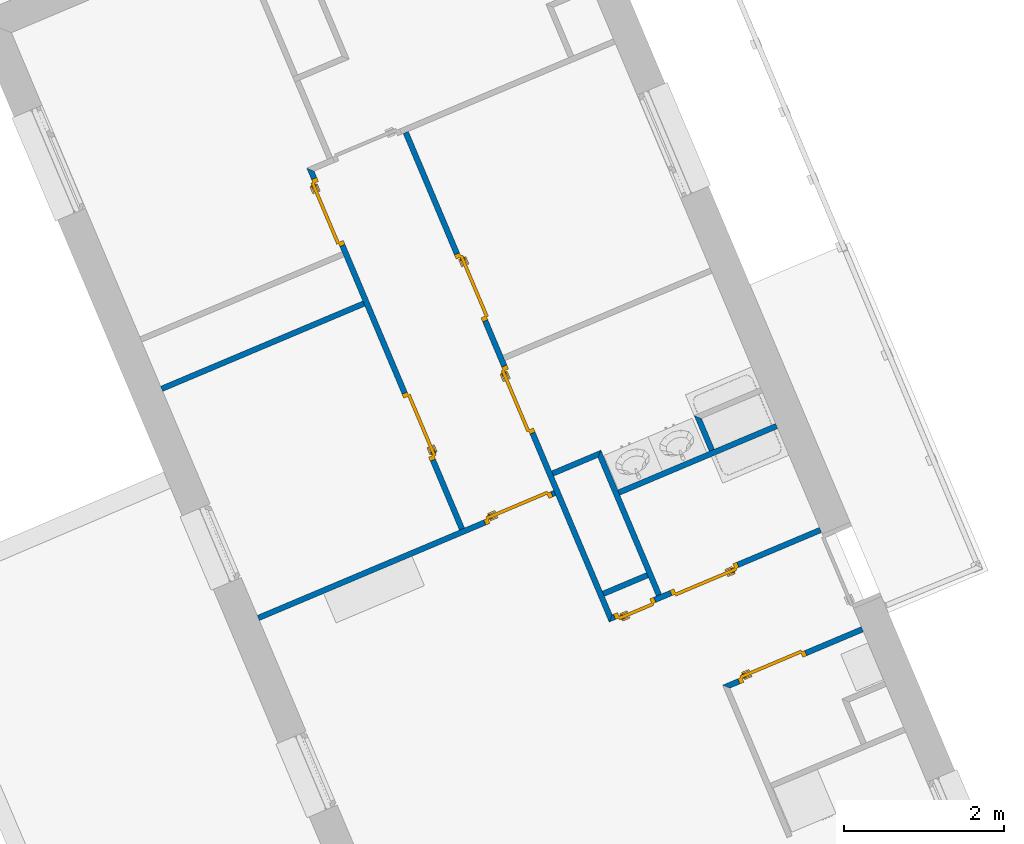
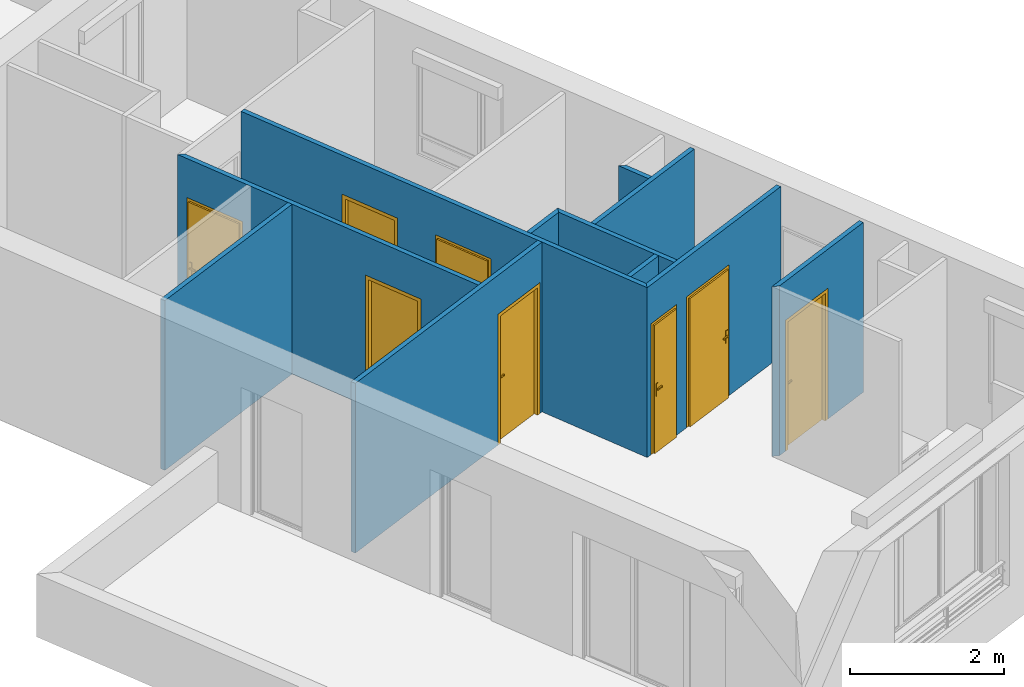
# One storey, part 34 of 121: 11 walls, 8 doors, 8 openings.
"""IFC2X3 building model written with IfcOpenShell, lengths in metres."""

from ifc_helpers import new_model, entity, si_unit, converted_unit, derived_unit, money_unit, direction, frame, origin_with_axes, origin_2d_with_axis, place, context, subcontext, project, spatial, polyline, rectangle, outline, extrude, faceted_brep, source, transform, mapped, material, layer, layer_set, layer_usage, type_object, element, fill, save


model = new_model("IFC2X3")

# Units and contexts
model_context = context("Model", 3, precision=1e-05, world=origin_with_axes(), true_north=direction((0.0, 1.0)))
body_context = subcontext(model_context, "Body", "Model", "MODEL_VIEW")
ifc_project = project(units=[si_unit("LENGTHUNIT", "METRE"), si_unit("AREAUNIT", "SQUARE_METRE"), si_unit("VOLUMEUNIT", "CUBIC_METRE"), converted_unit("PLANEANGLEUNIT", "DEGREE", entity("IfcPlaneAngleMeasure", 0.0174532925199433), si_unit("PLANEANGLEUNIT", "RADIAN"), dimensions=[0, 0, 0, 0, 0, 0, 0]), money_unit("CHF"), converted_unit("TIMEUNIT", "Year", entity("IfcTimeMeasure", 31557600.0), si_unit("TIMEUNIT", "SECOND"), dimensions=[0, 0, 1, 0, 0, 0, 0]), si_unit("MASSUNIT", "GRAM", prefix="KILO"), si_unit("THERMODYNAMICTEMPERATUREUNIT", "DEGREE_CELSIUS"), si_unit("LUMINOUSINTENSITYUNIT", "LUMEN"), si_unit("ENERGYUNIT", "JOULE", prefix="MEGA"), derived_unit("THERMALCONDUCTANCEUNIT", [(si_unit("POWERUNIT", "WATT"), 1), (si_unit("LENGTHUNIT", "METRE"), -1), (si_unit("THERMODYNAMICTEMPERATUREUNIT", "KELVIN"), -1)]), derived_unit("SPECIFICHEATCAPACITYUNIT", [(si_unit("ENERGYUNIT", "JOULE"), 1), (si_unit("MASSUNIT", "GRAM", prefix="KILO"), -1), (si_unit("THERMODYNAMICTEMPERATUREUNIT", "KELVIN"), -1)]), derived_unit("MASSDENSITYUNIT", [(si_unit("MASSUNIT", "GRAM", prefix="KILO"), 1), (si_unit("VOLUMEUNIT", "CUBIC_METRE"), -1)])], contexts=[model_context])

# Site, building, storey
site_placement = place(None, origin_with_axes())
site = spatial("IfcSite", under=ifc_project, at=site_placement, Name="Site", CompositionType="ELEMENT")
building_placement = place(site_placement, origin_with_axes())
building = spatial("IfcBuilding", under=site, at=building_placement, Name="Bâtiment", CompositionType="ELEMENT")
storey_placement = place(building_placement, frame((0.0, 0.0, 2.75), z_axis=(0.0, 0.0, 1.0), x_axis=(1.0, 0.0, 0.0)))
storey = spatial("IfcBuildingStorey", under=building, at=storey_placement, Name="Etage 1", CompositionType="ELEMENT", Elevation=2.75)

# Wall
ifc_material = material(Name="Hachure solide 268963992")
ifc_layer = layer(ifc_material, 0.07, ventilated="UNKNOWN")
ifc_layer_set = layer_set([ifc_layer], Name="Cloison 70 0826278243")
ifc_layer_usage_1 = layer_usage(ifc_layer_set, "AXIS2", "NEGATIVE", 0.0)
wall_type = type_object("IfcWallType", Name="Cloison 70 0826278243 70", PredefinedType="NOTDEFINED")
wall_1_placement = place(storey_placement, frame((9570.707457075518, -1054.706162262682, 57.7), z_axis=(0.0, 0.0, 1.0), x_axis=(-0.9214205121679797, -0.3885669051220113, 0.0)))
element("IfcWallStandardCase", 1, at=wall_1_placement, inside=storey, type_object=wall_type, material=ifc_layer_usage_1, Name="Mur-149", context=body_context, shape_type="SweptSolid", body=[
    extrude(outline(polyline([(0.07000000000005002, -0.06999999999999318), (2.81609925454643, -0.06999999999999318), (2.81609925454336, 0.0), (0.07000000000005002, 0.0), (0.07000000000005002, -0.06999999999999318)])), origin_with_axes(), (0.0, 0.0, 1.0), 2.7),
])

# Wall, openings, doors
ifc_layer_usage_2 = layer_usage(ifc_layer_set, "AXIS2", "NEGATIVE", 0.0)
wall_2_placement = place(storey_placement, frame((9570.00632937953, -1053.043556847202, 57.7), z_axis=(0.0, 0.0, 1.0), x_axis=(0.3885669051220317, -0.921420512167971, 0.0)))
wall_2 = element("IfcWallStandardCase", 2, at=wall_2_placement, inside=storey, type_object=wall_type, material=ifc_layer_usage_2, Name="Mur-149", context=body_context, shape_type="SweptSolid", body=[
    extrude(outline(polyline([(-0.07000000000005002, -0.06999999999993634), (4.846453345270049, -0.06999999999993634), (4.846453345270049, 0.0), (0.0, 0.0), (-0.07000000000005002, -0.06999999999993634)])), origin_with_axes(), (0.0, 0.0, 1.0), 2.7),
])
opening_1_placement = place(wall_2_placement, frame((3.455278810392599, 0.0, 0.0), z_axis=(0.0, 0.0, 1.0), x_axis=(1.0, 0.0, 0.0)))
opening_1 = element("IfcOpeningElement", 3, at=opening_1_placement, cuts=wall_2, Name="Por-301", context=body_context, shape_type="SweptSolid", body=[
    extrude(rectangle(XDim=0.9099999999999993, YDim=2.079999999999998, at=origin_2d_with_axis()), frame((0.0, -0.06999999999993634, 1.039999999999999), z_axis=(0.0, -1.0, 0.0), x_axis=(-1.0, 0.0, 0.0)), (0.0, 0.0, -1.0), 0.14),
])
opening_2_placement = place(wall_2_placement, frame((0.5406086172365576, 0.0, 0.0), z_axis=(0.0, 0.0, 1.0), x_axis=(1.0, 0.0, 0.0)))
opening_2 = element("IfcOpeningElement", 4, at=opening_2_placement, cuts=wall_2, Name="Por-299", context=body_context, shape_type="SweptSolid", body=[
    extrude(rectangle(XDim=0.9099999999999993, YDim=2.079999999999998, at=origin_2d_with_axis()), frame((0.0, 0.07000000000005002, 1.039999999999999), z_axis=(0.0, 1.0, 0.0), x_axis=(1.0, 0.0, 0.0)), (0.0, 0.0, -1.0), 0.14),
])
door_style = type_object("IfcDoorStyle", Name="Porte_1v", ConstructionType="NOTDEFINED", OperationType="NOTDEFINED", ParameterTakesPrecedence=False, Sizeable=False)
shared_shape_1 = source(origin_with_axes(), body_context, "Body", "Brep", [
    faceted_brep([(-0.455, 0.0, 0.0), (-0.455, 0.0, 2.08), (0.455, 0.0, 2.08), (0.455, 0.0, 0.0), (0.415, 0.0, 0.0), (0.415, 0.0, 2.04), (-0.415, 0.0, 2.04), (-0.415, 0.0, 0.0), (-0.455, -0.07, 0.0), (-0.455, -0.07, 2.08), (0.455, -0.07, 2.08), (0.455, -0.07, 0.0), (0.4, -0.07, 0.0), (0.4, -0.015, 0.0), (0.415, -0.015, 0.0), (0.415, -0.015, 2.04), (-0.415, -0.015, 2.04), (-0.415, -0.015, 0.0), (-0.4, -0.015, 0.0), (-0.4, -0.07, 0.0), (-0.4, -0.07, 2.025), (0.4, -0.07, 2.025), (0.4, -0.015, 2.025), (-0.4, -0.015, 2.025)], [[[0, 1, 2, 3, 4, 5, 6, 7]], [[8, 9, 1, 0]], [[9, 10, 2, 1]], [[10, 11, 3, 2]], [[3, 11, 12, 13, 14, 4]], [[5, 4, 14, 15]], [[6, 5, 15, 16]], [[7, 6, 16, 17]], [[0, 7, 17, 18, 19, 8]], [[19, 20, 21, 12, 11, 10, 9, 8]], [[22, 13, 12, 21]], [[17, 16, 15, 14, 13, 22, 23, 18]], [[18, 23, 20, 19]], [[23, 22, 21, 20]]]),
    faceted_brep([(0.35, -0.015, 0.9), (0.35, -0.015, 1.1), (0.39, -0.015, 1.1), (0.39, -0.015, 0.9), (0.35, -0.025, 0.9), (0.35, -0.025, 1.1), (0.39, -0.025, 1.1), (0.39, -0.025, 0.9)], [[[0, 1, 2, 3]], [[0, 4, 5, 1]], [[1, 5, 6, 2]], [[2, 6, 7, 3]], [[3, 7, 4, 0]], [[7, 6, 5, 4]]]),
    faceted_brep([(0.28, -0.025, 1.0), (0.28, -0.025, 1.02), (0.38, -0.025, 1.02), (0.38, -0.025, 1.0), (0.28, -0.045, 1.0), (0.28, -0.045, 1.02), (0.38, -0.045, 1.02), (0.38, -0.045, 1.0)], [[[0, 1, 2, 3]], [[0, 4, 5, 1]], [[1, 5, 6, 2]], [[2, 6, 7, 3]], [[3, 7, 4, 0]], [[7, 6, 5, 4]]]),
    faceted_brep([(0.35, 0.035, 0.9), (0.35, 0.035, 1.1), (0.39, 0.035, 1.1), (0.39, 0.035, 0.9), (0.35, 0.025, 0.9), (0.35, 0.025, 1.1), (0.39, 0.025, 1.1), (0.39, 0.025, 0.9)], [[[0, 1, 2, 3]], [[0, 4, 5, 1]], [[1, 5, 6, 2]], [[2, 6, 7, 3]], [[3, 7, 4, 0]], [[7, 6, 5, 4]]]),
    faceted_brep([(0.28, 0.05500000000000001, 1.0), (0.28, 0.05500000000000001, 1.02), (0.38, 0.05500000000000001, 1.02), (0.38, 0.05500000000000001, 1.0), (0.28, 0.035, 1.0), (0.28, 0.035, 1.02), (0.38, 0.035, 1.02), (0.38, 0.035, 1.0)], [[[0, 1, 2, 3]], [[0, 4, 5, 1]], [[1, 5, 6, 2]], [[2, 6, 7, 3]], [[3, 7, 4, 0]], [[7, 6, 5, 4]]]),
    faceted_brep([(0.415, 0.025, 0.0), (0.415, -0.015, 0.0), (-0.415, -0.015, 0.0), (-0.415, 0.025, 0.0), (0.415, 0.025, 2.04), (0.415, -0.015, 2.04), (-0.415, -0.015, 2.04), (-0.415, 0.025, 2.04)], [[[0, 1, 2, 3]], [[4, 5, 1, 0]], [[1, 5, 6, 2]], [[3, 2, 6, 7]], [[0, 3, 7, 4]], [[7, 6, 5, 4]]]),
])
door_1_placement = place(opening_1_placement, frame((-0.415000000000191, 0.0, 0.0), z_axis=(0.0, 0.0, 1.0), x_axis=(1.0, 0.0, 0.0)))
door_1 = element("IfcDoor", 5, at=door_1_placement, inside=storey, type_object=door_style, Name="Por-301", OverallHeight=2.04, OverallWidth=0.83, context=body_context, shape_type="MappedRepresentation", body=[
    mapped(shared_shape_1, transform((0.4150000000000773, 0.0, 0.0))),
])
fill(opening_1, door_1)
door_2_placement = place(opening_2_placement, frame((0.4150000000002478, 0.0, 0.0), z_axis=(0.0, 0.0, 1.0), x_axis=(-1.0, 0.0, 0.0)))
door_2 = element("IfcDoor", 6, at=door_2_placement, inside=storey, type_object=door_style, Name="Por-299", OverallHeight=2.04, OverallWidth=0.83, context=body_context, shape_type="MappedRepresentation", body=[
    mapped(shared_shape_1, transform((0.4150000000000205, 0.06999999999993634, 0.0))),
])
fill(opening_2, door_2)

# Walls
ifc_layer_usage_3 = layer_usage(ifc_layer_set, "AXIS2", "NEGATIVE", 0.0)
wall_3_placement = place(storey_placement, frame((9572.97776510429, -1056.795656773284, 57.7), z_axis=(0.0, 0.0, 1.0), x_axis=(0.9214205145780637, 0.3885668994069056, 0.0)))
element("IfcWallStandardCase", 7, at=wall_3_placement, inside=storey, type_object=wall_type, material=ifc_layer_usage_3, Name="Mur-149", context=body_context, shape_type="SweptSolid", body=[
    extrude(outline(polyline([(0.0, -0.06999999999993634), (0.6000000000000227, -0.06999999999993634), (0.6699999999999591, 0.0), (0.0, 0.0), (0.0, -0.06999999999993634)])), origin_with_axes(), (0.0, 0.0, 1.0), 2.7),
])
ifc_layer_usage_4 = layer_usage(ifc_layer_set, "AXIS2", "NEGATIVE", 0.0)
wall_4_placement = place(storey_placement, frame((9574.256892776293, -1058.104606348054, 57.7), z_axis=(0.0, 0.0, 1.0), x_axis=(-0.9214205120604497, -0.3885669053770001, 0.0)))
element("IfcWallStandardCase", 8, at=wall_4_placement, inside=storey, type_object=wall_type, material=ifc_layer_usage_4, Name="Mur-149", context=body_context, shape_type="SweptSolid", body=[
    extrude(outline(polyline([(0.06999999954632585, -0.06999999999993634), (0.6699999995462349, -0.06999999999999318), (0.6699999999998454, 0.0), (0.06999999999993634, 0.0), (0.06999999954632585, -0.06999999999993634)])), origin_with_axes(), (0.0, 0.0, 1.0), 2.7),
])

# Wall, opening, door
ifc_layer_usage_5 = layer_usage(ifc_layer_set, "AXIS2", "POSITIVE", 0.0)
wall_5_placement = place(storey_placement, frame((9575.20997934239, -1059.513478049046, 57.7), z_axis=(0.0, 0.0, 1.0), x_axis=(0.9214205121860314, 0.3885669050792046, 0.0)))
wall_5 = element("IfcWallStandardCase", 9, at=wall_5_placement, inside=storey, type_object=wall_type, material=ifc_layer_usage_5, Name="Mur-149", context=body_context, shape_type="SweptSolid", body=[
    extrude(outline(polyline([(0.0, 0.0), (1.813062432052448, 0.0), (1.813062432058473, 0.06999999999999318), (-0.07000000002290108, 0.06999999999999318), (0.0, 0.0)])), origin_with_axes(), (0.0, 0.0, 1.0), 2.7),
])
opening_3_placement = place(wall_5_placement, frame((0.5904197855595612, 0.0, 0.0), z_axis=(0.0, 0.0, 1.0), x_axis=(1.0, 0.0, 0.0)))
opening_3 = element("IfcOpeningElement", 10, at=opening_3_placement, cuts=wall_5, Name="Por-299", context=body_context, shape_type="SweptSolid", body=[
    extrude(rectangle(XDim=0.9099999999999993, YDim=2.079999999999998, at=origin_2d_with_axis()), frame((0.0, -0.07000000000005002, 1.039999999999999), z_axis=(0.0, 1.0, 0.0), x_axis=(1.0, 0.0, 0.0)), (0.0, 0.0, 1.0), 0.14),
])
shared_shape_2 = source(origin_with_axes(), body_context, "Body", "Brep", [
    faceted_brep([(0.455, 0.0, 0.0), (0.415, 0.0, 0.0), (0.415, 0.0, 2.04), (-0.415, 0.0, 2.04), (-0.415, 0.0, 0.0), (-0.455, 0.0, 0.0), (-0.455, 0.0, 2.08), (0.455, 0.0, 2.08), (0.455, -0.07, 0.0), (0.4, -0.07, 0.0), (0.4, -0.015, 0.0), (0.415, -0.015, 0.0), (0.415, -0.015, 2.04), (-0.415, -0.015, 2.04), (-0.415, -0.015, 0.0), (-0.4, -0.015, 0.0), (-0.4, -0.07, 0.0), (-0.455, -0.07, 0.0), (-0.455, -0.07, 2.08), (0.455, -0.07, 2.08), (-0.4, -0.07, 2.025), (0.4, -0.07, 2.025), (0.4, -0.015, 2.025), (-0.4, -0.015, 2.025)], [[[0, 1, 2, 3, 4, 5, 6, 7]], [[0, 8, 9, 10, 11, 1]], [[1, 11, 12, 2]], [[2, 12, 13, 3]], [[3, 13, 14, 4]], [[5, 4, 14, 15, 16, 17]], [[18, 6, 5, 17]], [[19, 7, 6, 18]], [[8, 0, 7, 19]], [[9, 8, 19, 18, 17, 16, 20, 21]], [[10, 9, 21, 22]], [[11, 10, 22, 23, 15, 14, 13, 12]], [[23, 20, 16, 15]], [[22, 21, 20, 23]]]),
    faceted_brep([(-0.35, -0.015, 0.9), (-0.39, -0.015, 0.9), (-0.39, -0.015, 1.1), (-0.35, -0.015, 1.1), (-0.35, -0.025, 0.9), (-0.39, -0.025, 0.9), (-0.39, -0.025, 1.1), (-0.35, -0.025, 1.1)], [[[0, 1, 2, 3]], [[1, 0, 4, 5]], [[2, 1, 5, 6]], [[3, 2, 6, 7]], [[0, 3, 7, 4]], [[5, 4, 7, 6]]]),
    faceted_brep([(-0.28, -0.025, 1.0), (-0.38, -0.025, 1.0), (-0.38, -0.025, 1.02), (-0.28, -0.025, 1.02), (-0.28, -0.045, 1.0), (-0.38, -0.045, 1.0), (-0.38, -0.045, 1.02), (-0.28, -0.045, 1.02)], [[[0, 1, 2, 3]], [[1, 0, 4, 5]], [[2, 1, 5, 6]], [[3, 2, 6, 7]], [[0, 3, 7, 4]], [[5, 4, 7, 6]]]),
    faceted_brep([(-0.35, 0.035, 0.9), (-0.39, 0.035, 0.9), (-0.39, 0.035, 1.1), (-0.35, 0.035, 1.1), (-0.35, 0.025, 0.9), (-0.39, 0.025, 0.9), (-0.39, 0.025, 1.1), (-0.35, 0.025, 1.1)], [[[0, 1, 2, 3]], [[1, 0, 4, 5]], [[2, 1, 5, 6]], [[3, 2, 6, 7]], [[0, 3, 7, 4]], [[5, 4, 7, 6]]]),
    faceted_brep([(-0.28, 0.05500000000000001, 1.0), (-0.38, 0.05500000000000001, 1.0), (-0.38, 0.05500000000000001, 1.02), (-0.28, 0.05500000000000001, 1.02), (-0.28, 0.035, 1.0), (-0.38, 0.035, 1.0), (-0.38, 0.035, 1.02), (-0.28, 0.035, 1.02)], [[[0, 1, 2, 3]], [[1, 0, 4, 5]], [[2, 1, 5, 6]], [[3, 2, 6, 7]], [[0, 3, 7, 4]], [[5, 4, 7, 6]]]),
    faceted_brep([(-0.415, 0.025, 0.0), (0.415, 0.025, 0.0), (0.415, -0.015, 0.0), (-0.415, -0.015, 0.0), (-0.415, 0.025, 2.04), (0.415, 0.025, 2.04), (0.415, -0.015, 2.04), (-0.415, -0.015, 2.04)], [[[0, 1, 2, 3]], [[0, 4, 5, 1]], [[1, 5, 6, 2]], [[3, 2, 6, 7]], [[4, 0, 3, 7]], [[5, 4, 7, 6]]]),
])
door_3_placement = place(opening_3_placement, frame((-0.415000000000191, 0.0, 0.0), z_axis=(0.0, 0.0, 1.0), x_axis=(1.0, 0.0, 0.0)))
door_3 = element("IfcDoor", 11, at=door_3_placement, inside=storey, type_object=door_style, Name="Por-299", OverallHeight=2.04, OverallWidth=0.83, context=body_context, shape_type="MappedRepresentation", body=[
    mapped(shared_shape_2, transform((0.4149999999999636, 0.06999999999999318, 0.0))),
])
fill(opening_3, door_3)

# Wall, openings, doors
ifc_layer_usage_6 = layer_usage(ifc_layer_set, "AXIS2", "NEGATIVE", 0.0)
wall_6_placement = place(storey_placement, frame((9576.706729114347, -1057.418789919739, 57.7), z_axis=(0.0, 0.0, 1.0), x_axis=(-0.9214205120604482, -0.3885669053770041, 0.0)))
wall_6 = element("IfcWallStandardCase", 12, at=wall_6_placement, inside=storey, type_object=wall_type, material=ifc_layer_usage_6, Name="Mur-149", context=body_context, shape_type="SweptSolid", body=[
    extrude(outline(polyline([(0.3799999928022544, -0.06999999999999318), (3.193815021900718, -0.06999999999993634), (3.263815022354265, 0.0), (0.3799999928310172, 0.0), (0.3799999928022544, -0.06999999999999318)])), origin_with_axes(), (0.0, 0.0, 1.0), 2.7),
])
opening_4_placement = place(wall_6_placement, frame((1.956257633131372, 0.0, 0.0), z_axis=(0.0, 0.0, 1.0), x_axis=(1.0, 0.0, 0.0)))
opening_4 = element("IfcOpeningElement", 13, at=opening_4_placement, cuts=wall_6, Name="Por-299", context=body_context, shape_type="SweptSolid", body=[
    extrude(rectangle(XDim=0.9099999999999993, YDim=2.079999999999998, at=origin_2d_with_axis()), frame((0.0, -0.06999999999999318, 1.039999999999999), z_axis=(0.0, 1.0, 0.0), x_axis=(1.0, 0.0, 0.0)), (0.0, 0.0, 1.0), 0.14),
])
opening_5_placement = place(wall_6_placement, frame((2.902746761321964, 0.0, 0.0), z_axis=(0.0, 0.0, 1.0), x_axis=(1.0, 0.0, 0.0)))
opening_5 = element("IfcOpeningElement", 14, at=opening_5_placement, cuts=wall_6, Name="Por-320", context=body_context, shape_type="SweptSolid", body=[
    extrude(rectangle(XDim=0.547405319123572, YDim=2.079999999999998, at=origin_2d_with_axis()), frame((2.722686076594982e-09, -0.06999999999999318, 1.039999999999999), z_axis=(0.0, -1.0, 0.0), x_axis=(-1.0, 0.0, 0.0)), (0.0, 0.0, -1.0), 0.14),
])
door_4_placement = place(opening_4_placement, frame((-0.4150000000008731, 0.0, 0.0), z_axis=(0.0, 0.0, 1.0), x_axis=(1.0, 0.0, 0.0)))
door_4 = element("IfcDoor", 15, at=door_4_placement, inside=storey, type_object=door_style, Name="Por-299", OverallHeight=2.04, OverallWidth=0.83, context=body_context, shape_type="MappedRepresentation", body=[
    mapped(shared_shape_2, transform((0.4150000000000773, 0.0, 0.0))),
])
fill(opening_4, door_4)
shared_shape_3 = source(origin_with_axes(), body_context, "Body", "Brep", [
    faceted_brep([(-0.2737026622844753, 0.0, 0.0), (-0.2737026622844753, 0.0, 2.08), (0.2737026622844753, 0.0, 2.08), (0.2737026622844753, 0.0, 0.0), (0.2337026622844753, 0.0, 0.0), (0.2337026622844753, 0.0, 2.04), (-0.2337026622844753, 0.0, 2.04), (-0.2337026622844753, 0.0, 0.0), (-0.2737026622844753, -0.07, 0.0), (-0.2737026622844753, -0.07, 2.08), (0.2737026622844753, -0.07, 2.08), (0.2737026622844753, -0.07, 0.0), (0.2187026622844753, -0.07, 0.0), (0.2187026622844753, -0.015, 0.0), (0.2337026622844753, -0.015, 0.0), (0.2337026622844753, -0.015, 2.04), (-0.2337026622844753, -0.015, 2.04), (-0.2337026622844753, -0.015, 0.0), (-0.2187026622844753, -0.015, 0.0), (-0.2187026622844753, -0.07, 0.0), (-0.2187026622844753, -0.07, 2.025), (0.2187026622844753, -0.07, 2.025), (0.2187026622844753, -0.015, 2.025), (-0.2187026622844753, -0.015, 2.025)], [[[0, 1, 2, 3, 4, 5, 6, 7]], [[8, 9, 1, 0]], [[9, 10, 2, 1]], [[10, 11, 3, 2]], [[3, 11, 12, 13, 14, 4]], [[5, 4, 14, 15]], [[6, 5, 15, 16]], [[7, 6, 16, 17]], [[0, 7, 17, 18, 19, 8]], [[19, 20, 21, 12, 11, 10, 9, 8]], [[22, 13, 12, 21]], [[17, 16, 15, 14, 13, 22, 23, 18]], [[18, 23, 20, 19]], [[23, 22, 21, 20]]]),
    faceted_brep([(0.1687026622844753, -0.015, 0.9), (0.1687026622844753, -0.015, 1.1), (0.2087026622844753, -0.015, 1.1), (0.2087026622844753, -0.015, 0.9), (0.1687026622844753, -0.025, 0.9), (0.1687026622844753, -0.025, 1.1), (0.2087026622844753, -0.025, 1.1), (0.2087026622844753, -0.025, 0.9)], [[[0, 1, 2, 3]], [[0, 4, 5, 1]], [[1, 5, 6, 2]], [[2, 6, 7, 3]], [[3, 7, 4, 0]], [[7, 6, 5, 4]]]),
    faceted_brep([(0.0987026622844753, -0.025, 1.0), (0.0987026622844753, -0.025, 1.02), (0.1987026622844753, -0.025, 1.02), (0.1987026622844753, -0.025, 1.0), (0.0987026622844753, -0.045, 1.0), (0.0987026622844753, -0.045, 1.02), (0.1987026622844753, -0.045, 1.02), (0.1987026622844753, -0.045, 1.0)], [[[0, 1, 2, 3]], [[0, 4, 5, 1]], [[1, 5, 6, 2]], [[2, 6, 7, 3]], [[3, 7, 4, 0]], [[7, 6, 5, 4]]]),
    faceted_brep([(0.1687026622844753, 0.035, 0.9), (0.1687026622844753, 0.035, 1.1), (0.2087026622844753, 0.035, 1.1), (0.2087026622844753, 0.035, 0.9), (0.1687026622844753, 0.025, 0.9), (0.1687026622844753, 0.025, 1.1), (0.2087026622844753, 0.025, 1.1), (0.2087026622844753, 0.025, 0.9)], [[[0, 1, 2, 3]], [[0, 4, 5, 1]], [[1, 5, 6, 2]], [[2, 6, 7, 3]], [[3, 7, 4, 0]], [[7, 6, 5, 4]]]),
    faceted_brep([(0.0987026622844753, 0.05500000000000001, 1.0), (0.0987026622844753, 0.05500000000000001, 1.02), (0.1987026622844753, 0.05500000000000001, 1.02), (0.1987026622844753, 0.05500000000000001, 1.0), (0.0987026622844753, 0.035, 1.0), (0.0987026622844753, 0.035, 1.02), (0.1987026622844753, 0.035, 1.02), (0.1987026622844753, 0.035, 1.0)], [[[0, 1, 2, 3]], [[0, 4, 5, 1]], [[1, 5, 6, 2]], [[2, 6, 7, 3]], [[3, 7, 4, 0]], [[7, 6, 5, 4]]]),
    faceted_brep([(0.2337026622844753, 0.025, 0.0), (0.2337026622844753, -0.015, 0.0), (-0.2337026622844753, -0.015, 0.0), (-0.2337026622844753, 0.025, 0.0), (0.2337026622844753, 0.025, 2.04), (0.2337026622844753, -0.015, 2.04), (-0.2337026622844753, -0.015, 2.04), (-0.2337026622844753, 0.025, 2.04)], [[[0, 1, 2, 3]], [[4, 5, 1, 0]], [[1, 5, 6, 2]], [[3, 2, 6, 7]], [[0, 3, 7, 4]], [[7, 6, 5, 4]]]),
])
door_5_placement = place(opening_5_placement, frame((-0.2337026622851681, 0.0, 0.0), z_axis=(0.0, 0.0, 1.0), x_axis=(1.0, 0.0, 0.0)))
door_5 = element("IfcDoor", 16, at=door_5_placement, inside=storey, type_object=door_style, Name="Por-320", OverallHeight=2.04, OverallWidth=0.467405, context=body_context, shape_type="MappedRepresentation", body=[
    mapped(shared_shape_3, transform((0.233702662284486, 0.0, 0.0))),
])
fill(opening_5, door_5)

# Walls
ifc_layer_usage_7 = layer_usage(ifc_layer_set, "AXIS2", "POSITIVE", 0.0)
wall_7_placement = place(storey_placement, frame((9575.043260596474, -1056.588163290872, 57.7), z_axis=(0.0, 0.0, 1.0), x_axis=(-0.3885669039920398, 0.9214205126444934, 0.0)))
element("IfcWallStandardCase", 17, at=wall_7_placement, inside=storey, type_object=wall_type, material=ifc_layer_usage_7, Name="Mur-149", context=body_context, shape_type="SweptSolid", body=[
    extrude(outline(polyline([(0.06999999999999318, 0.0), (0.4870133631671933, 0.0), (0.5570133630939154, 0.06999999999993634), (0.06999999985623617, 0.06999999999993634), (0.06999999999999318, 0.0)])), origin_with_axes(), (0.0, 0.0, 1.0), 2.7),
])
ifc_layer_usage_8 = layer_usage(ifc_layer_set, "AXIS2", "NEGATIVE", 0.0)
wall_8_placement = place(storey_placement, frame((9576.158179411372, -1056.117997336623, 57.7), z_axis=(0.0, 0.0, 1.0), x_axis=(-0.9214205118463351, -0.3885669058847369, 0.0)))
element("IfcWallStandardCase", 18, at=wall_8_placement, inside=storey, type_object=wall_type, material=ifc_layer_usage_8, Name="Mur-149", context=body_context, shape_type="SweptSolid", body=[
    extrude(outline(polyline([(0.3799999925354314, -0.07000000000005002), (2.523815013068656, -0.07000000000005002), (2.523815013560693, 0.0), (0.3799999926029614, 0.0), (0.3799999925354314, -0.07000000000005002)])), origin_with_axes(), (0.0, 0.0, 1.0), 2.7),
])

# Wall, openings, doors
ifc_layer_usage_9 = layer_usage(ifc_layer_set, "AXIS2", "NEGATIVE", 0.0)
wall_9_placement = place(storey_placement, frame((9571.185747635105, -1052.546191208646, 57.7), z_axis=(0.0, 0.0, 1.0), x_axis=(0.3885668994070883, -0.9214205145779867, 0.0)))
wall_9 = element("IfcWallStandardCase", 19, at=wall_9_placement, inside=storey, type_object=wall_type, material=ifc_layer_usage_9, Name="Mur-149", context=body_context, shape_type="SweptSolid", body=[
    extrude(outline(polyline([(4.341131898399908e-10, -0.06999999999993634), (6.634983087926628, -0.06999999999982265), (6.564983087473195, 0.0), (0.0, 0.0), (4.341131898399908e-10, -0.06999999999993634)])), origin_with_axes(), (0.0, 0.0, 1.0), 2.7),
])
opening_6_placement = place(wall_9_placement, frame((3.627776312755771, 0.0, 0.0), z_axis=(0.0, 0.0, 1.0), x_axis=(1.0, 0.0, 0.0)))
opening_6 = element("IfcOpeningElement", 20, at=opening_6_placement, cuts=wall_9, Name="Por-301", context=body_context, shape_type="SweptSolid", body=[
    extrude(rectangle(XDim=0.9099999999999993, YDim=2.079999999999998, at=origin_2d_with_axis()), frame((0.0, 0.07000000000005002, 1.039999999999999), z_axis=(0.0, 1.0, 0.0), x_axis=(1.0, 0.0, 0.0)), (0.0, 0.0, -1.0), 0.14),
])
opening_7_placement = place(wall_9_placement, frame((2.103838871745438, 0.0, 0.0), z_axis=(0.0, 0.0, 1.0), x_axis=(1.0, 0.0, 0.0)))
opening_7 = element("IfcOpeningElement", 21, at=opening_7_placement, cuts=wall_9, Name="Por-299", context=body_context, shape_type="SweptSolid", body=[
    extrude(rectangle(XDim=0.9099999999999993, YDim=2.079999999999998, at=origin_2d_with_axis()), frame((0.0, -0.06999999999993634, 1.039999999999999), z_axis=(0.0, 1.0, 0.0), x_axis=(1.0, 0.0, 0.0)), (0.0, 0.0, 1.0), 0.14),
])
door_6_placement = place(opening_7_placement, frame((-0.4149999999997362, 0.0, 0.0), z_axis=(0.0, 0.0, 1.0), x_axis=(1.0, 0.0, 0.0)))
door_6 = element("IfcDoor", 22, at=door_6_placement, inside=storey, type_object=door_style, Name="Por-299", OverallHeight=2.04, OverallWidth=0.83, context=body_context, shape_type="MappedRepresentation", body=[
    mapped(shared_shape_2, transform((0.4149999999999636, 0.0, 0.0))),
])
fill(opening_7, door_6)
door_7_placement = place(opening_6_placement, frame((0.4150000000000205, 0.0, 0.0), z_axis=(0.0, 0.0, 1.0), x_axis=(-1.0, 0.0, 0.0)))
door_7 = element("IfcDoor", 23, at=door_7_placement, inside=storey, type_object=door_style, Name="Por-301", OverallHeight=2.04, OverallWidth=0.83, context=body_context, shape_type="MappedRepresentation", body=[
    mapped(shared_shape_1, transform((0.4150000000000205, 0.06999999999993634, 0.0))),
])
fill(opening_6, door_7)

# Wall, opening, door
ifc_layer_usage_10 = layer_usage(ifc_layer_set, "AXIS2", "NEGATIVE", 0.0)
wall_10_placement = place(storey_placement, frame((9573.096118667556, -1057.076312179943, 57.7), z_axis=(0.0, 0.0, 1.0), x_axis=(-0.9214205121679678, -0.3885669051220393, 0.0)))
wall_10 = element("IfcWallStandardCase", 24, at=wall_10_placement, inside=storey, type_object=wall_type, material=ifc_layer_usage_10, Name="Mur-149", context=body_context, shape_type="SweptSolid", body=[
    extrude(outline(polyline([(0.06999999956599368, -0.06999999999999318), (4.096099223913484, -0.07000000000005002), (4.096099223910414, 0.0), (0.0700000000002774, 0.0), (0.06999999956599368, -0.06999999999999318)])), origin_with_axes(), (0.0, 0.0, 1.0), 2.7),
])
opening_8_placement = place(wall_10_placement, frame((0.5644931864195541, 0.0, 0.0), z_axis=(0.0, 0.0, 1.0), x_axis=(1.0, 0.0, 0.0)))
opening_8 = element("IfcOpeningElement", 25, at=opening_8_placement, cuts=wall_10, Name="Por-299", context=body_context, shape_type="SweptSolid", body=[
    extrude(rectangle(XDim=0.9099999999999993, YDim=2.079999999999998, at=origin_2d_with_axis()), frame((0.0, 0.07000000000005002, 1.039999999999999), z_axis=(0.0, -1.0, 0.0), x_axis=(-1.0, 0.0, 0.0)), (0.0, 0.0, 1.0), 0.14),
])
door_8_placement = place(opening_8_placement, frame((0.4150000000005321, 0.0, 0.0), z_axis=(0.0, 0.0, 1.0), x_axis=(-1.0, 0.0, 0.0)))
door_8 = element("IfcDoor", 26, at=door_8_placement, inside=storey, type_object=door_style, Name="Por-299", OverallHeight=2.04, OverallWidth=0.83, context=body_context, shape_type="MappedRepresentation", body=[
    mapped(shared_shape_2, transform((0.4150000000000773, 0.06999999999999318, 0.0))),
])
fill(opening_8, door_8)

# Wall
ifc_layer_usage_11 = layer_usage(ifc_layer_set, "AXIS2", "NEGATIVE", 0.0)
wall_11_placement = place(storey_placement, frame((9573.595116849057, -1056.535316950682, 57.7), z_axis=(0.0, 0.0, 1.0), x_axis=(0.3885668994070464, -0.9214205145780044, 0.0)))
element("IfcWallStandardCase", 27, at=wall_11_placement, inside=storey, type_object=wall_type, material=ifc_layer_usage_11, Name="Mur-149", context=body_context, shape_type="SweptSolid", body=[
    extrude(outline(polyline([(0.06999999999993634, -0.07000000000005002), (1.953119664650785, -0.07000000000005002), (1.953119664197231, 0.0), (0.0, 0.0), (0.06999999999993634, -0.07000000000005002)])), origin_with_axes(), (0.0, 0.0, 1.0), 2.7),
])

save(model, "model.ifc")
